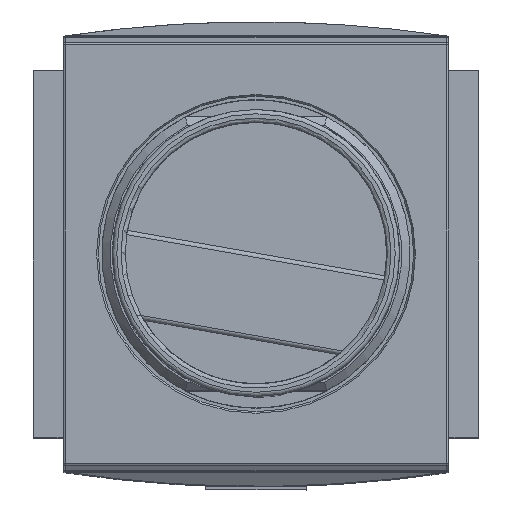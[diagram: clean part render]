
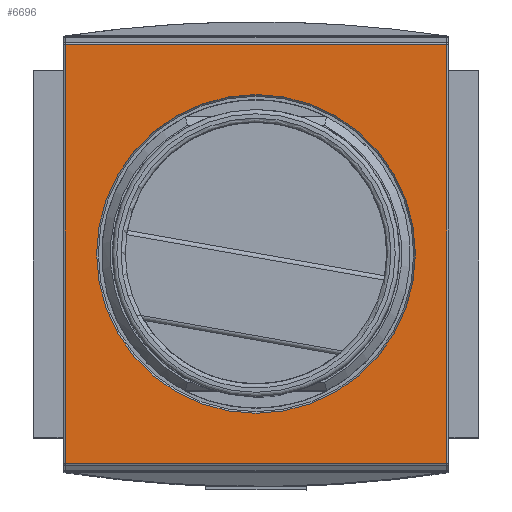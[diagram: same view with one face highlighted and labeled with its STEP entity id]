
A CAD part, top view. The second image highlights one B-rep face of the part: STEP entity #6696.
In plain terms, the highlighted planar face has unit normal (0, 0, 1).
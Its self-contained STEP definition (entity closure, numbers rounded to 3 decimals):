
#6500=CARTESIAN_POINT('',(-22.25,-24.458,34.));
#6501=VERTEX_POINT('',#6500);
#6509=CARTESIAN_POINT('',(-22.25,24.431,34.));
#6510=VERTEX_POINT('',#6509);
#6511=CARTESIAN_POINT('',(-22.25,-24.458,34.));
#6512=DIRECTION('',(0.0,1.0,0.0));
#6513=VECTOR('',#6512,48.889);
#6514=LINE('',#6511,#6513);
#6515=EDGE_CURVE('',#6501,#6510,#6514,.T.);
#6643=CARTESIAN_POINT('',(22.25,24.431,34.0));
#6644=VERTEX_POINT('',#6643);
#6645=CARTESIAN_POINT('',(-22.25,24.431,34.));
#6646=DIRECTION('',(1.0,0.0,0.0));
#6647=VECTOR('',#6646,44.5);
#6648=LINE('',#6645,#6647);
#6649=EDGE_CURVE('',#6510,#6644,#6648,.T.);
#6662=CARTESIAN_POINT('',(0.,0.,34.0));
#6663=DIRECTION('',(0.0,0.0,-1.0));
#6664=DIRECTION('',(0.0,1.0,0.0));
#6665=AXIS2_PLACEMENT_3D('',#6662,#6663,#6664);
#6666=PLANE('',#6665);
#6667=ORIENTED_EDGE('',*,*,#6515,.F.);
#6668=CARTESIAN_POINT('',(22.25,-24.458,34.0));
#6669=VERTEX_POINT('',#6668);
#6670=CARTESIAN_POINT('',(22.25,-24.458,34.));
#6671=DIRECTION('',(-1.0,0.0,0.0));
#6672=VECTOR('',#6671,44.5);
#6673=LINE('',#6670,#6672);
#6674=EDGE_CURVE('',#6669,#6501,#6673,.T.);
#6675=ORIENTED_EDGE('',*,*,#6674,.F.);
#6676=CARTESIAN_POINT('',(22.25,24.431,34.0));
#6677=DIRECTION('',(0.0,-1.0,0.0));
#6678=VECTOR('',#6677,48.889);
#6679=LINE('',#6676,#6678);
#6680=EDGE_CURVE('',#6644,#6669,#6679,.T.);
#6681=ORIENTED_EDGE('',*,*,#6680,.F.);
#6682=ORIENTED_EDGE('',*,*,#6649,.F.);
#6683=EDGE_LOOP('',(#6667,#6675,#6681,#6682));
#6684=FACE_OUTER_BOUND('',#6683,.T.);
#6685=CARTESIAN_POINT('',(0.,18.6,34.0));
#6686=VERTEX_POINT('',#6685);
#6687=CARTESIAN_POINT('',(0.,0.,34.0));
#6688=DIRECTION('',(0.0,0.0,-1.0));
#6689=DIRECTION('',(0.0,-1.0,0.0));
#6690=AXIS2_PLACEMENT_3D('',#6687,#6688,#6689);
#6691=CIRCLE('',#6690,18.6);
#6692=EDGE_CURVE('',#6686,#6686,#6691,.T.);
#6693=ORIENTED_EDGE('',*,*,#6692,.T.);
#6694=EDGE_LOOP('',(#6693));
#6695=FACE_BOUND('',#6694,.T.);
#6696=ADVANCED_FACE('',(#6684,#6695),#6666,.F.);
